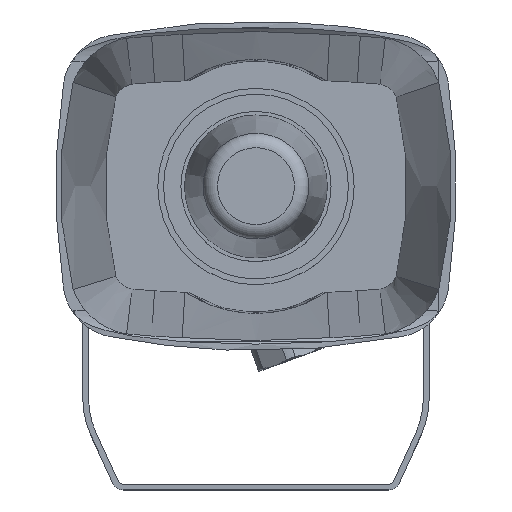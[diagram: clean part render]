
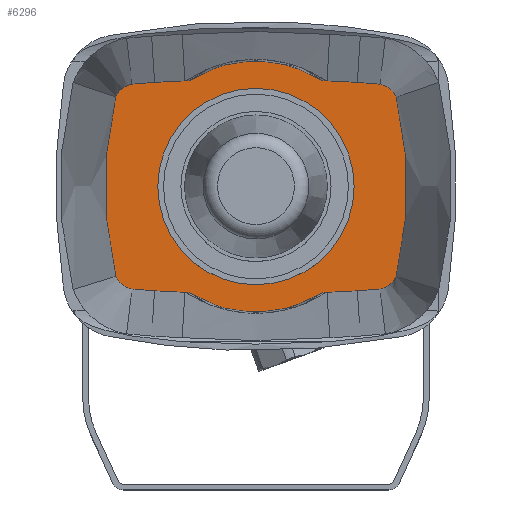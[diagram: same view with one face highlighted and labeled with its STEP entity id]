
A CAD part, top view. The second image highlights one B-rep face of the part: STEP entity #6296.
In plain terms, the highlighted planar face has unit normal (0, 0, 1).
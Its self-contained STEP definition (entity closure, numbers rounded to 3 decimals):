
#127=FACE_BOUND($,#1305,.T.);
#128=FACE_BOUND($,#1306,.T.);
#568=PLANE($,#6910);
#1305=EDGE_LOOP($,(#5394));
#1306=EDGE_LOOP($,(#5395,#5396,#5397,#5398,#5399,#5400,#5401,#5402,#5403,
#5404,#5405,#5406,#5407,#5408,#5409,#5410,#5411,#5412,#5413,#5414,#5415,
#5416,#5417,#5418));
#1646=LINE($,#11157,#2057);
#1647=LINE($,#11159,#2058);
#1649=LINE($,#11163,#2060);
#1650=LINE($,#11169,#2061);
#1695=LINE($,#11876,#2106);
#1696=LINE($,#11878,#2107);
#1697=LINE($,#11886,#2108);
#1698=LINE($,#11887,#2109);
#2057=VECTOR($,#8066,10.5);
#2058=VECTOR($,#8069,7.872);
#2060=VECTOR($,#8073,7.872);
#2061=VECTOR($,#8076,10.5);
#2106=VECTOR($,#8385,10.5);
#2107=VECTOR($,#8386,7.872);
#2108=VECTOR($,#8393,7.872);
#2109=VECTOR($,#8394,10.5);
#2360=CIRCLE($,#6730,7.629);
#2362=CIRCLE($,#6733,129.916);
#2364=CIRCLE($,#6736,7.629);
#2380=CIRCLE($,#6773,357.475);
#2381=CIRCLE($,#6774,357.475);
#2382=CIRCLE($,#6780,357.475);
#2383=CIRCLE($,#6782,357.475);
#2385=CIRCLE($,#6785,43.427);
#2386=CIRCLE($,#6787,356.516);
#2387=CIRCLE($,#6789,356.516);
#2400=CIRCLE($,#6811,43.427);
#2409=CIRCLE($,#6829,34.);
#2450=CIRCLE($,#6908,356.516);
#2451=CIRCLE($,#6909,356.516);
#2452=CIRCLE($,#6911,7.618);
#2453=CIRCLE($,#6912,129.916);
#2454=CIRCLE($,#6913,7.618);
#2851=VERTEX_POINT($,#10698);
#2852=VERTEX_POINT($,#10711);
#2855=VERTEX_POINT($,#10732);
#2858=VERTEX_POINT($,#10762);
#2898=VERTEX_POINT($,#11100);
#2899=VERTEX_POINT($,#11104);
#2900=VERTEX_POINT($,#11106);
#2901=VERTEX_POINT($,#11149);
#2902=VERTEX_POINT($,#11155);
#2903=VERTEX_POINT($,#11161);
#2904=VERTEX_POINT($,#11165);
#2906=VERTEX_POINT($,#11182);
#2908=VERTEX_POINT($,#11206);
#2911=VERTEX_POINT($,#11222);
#2912=VERTEX_POINT($,#11233);
#2913=VERTEX_POINT($,#11246);
#2914=VERTEX_POINT($,#11259);
#2950=VERTEX_POINT($,#11585);
#3027=VERTEX_POINT($,#11868);
#3028=VERTEX_POINT($,#11875);
#3029=VERTEX_POINT($,#11877);
#3030=VERTEX_POINT($,#11879);
#3031=VERTEX_POINT($,#11881);
#3032=VERTEX_POINT($,#11883);
#3033=VERTEX_POINT($,#11885);
#3644=EDGE_CURVE($,#2852,#2851,#2360,.T.);
#3649=EDGE_CURVE($,#2851,#2855,#2362,.T.);
#3653=EDGE_CURVE($,#2855,#2858,#2364,.T.);
#3707=EDGE_CURVE($,#2899,#2898,#2380,.T.);
#3709=EDGE_CURVE($,#2901,#2900,#2381,.T.);
#3712=EDGE_CURVE($,#2902,#2898,#1646,.T.);
#3713=EDGE_CURVE($,#2852,#2902,#1647,.T.);
#3715=EDGE_CURVE($,#2858,#2903,#1649,.T.);
#3717=EDGE_CURVE($,#2903,#2904,#1650,.T.);
#3720=EDGE_CURVE($,#2900,#2906,#2382,.T.);
#3722=EDGE_CURVE($,#2908,#2899,#2383,.T.);
#3726=EDGE_CURVE($,#2912,#2911,#2385,.T.);
#3729=EDGE_CURVE($,#2911,#2913,#2386,.T.);
#3731=EDGE_CURVE($,#2914,#2912,#2387,.T.);
#3757=EDGE_CURVE($,#2906,#2908,#2400,.T.);
#3772=EDGE_CURVE($,#2950,#2950,#2409,.T.);
#3868=EDGE_CURVE($,#2913,#3027,#2450,.T.);
#3869=EDGE_CURVE($,#2904,#2914,#2451,.T.);
#3870=EDGE_CURVE($,#3028,#3027,#1695,.T.);
#3871=EDGE_CURVE($,#3029,#3028,#1696,.T.);
#3872=EDGE_CURVE($,#3029,#3030,#2452,.T.);
#3873=EDGE_CURVE($,#3030,#3031,#2453,.T.);
#3874=EDGE_CURVE($,#3031,#3032,#2454,.T.);
#3875=EDGE_CURVE($,#3032,#3033,#1697,.T.);
#3876=EDGE_CURVE($,#3033,#2901,#1698,.T.);
#5394=ORIENTED_EDGE($,*,*,#3772,.F.);
#5395=ORIENTED_EDGE($,*,*,#3712,.F.);
#5396=ORIENTED_EDGE($,*,*,#3713,.F.);
#5397=ORIENTED_EDGE($,*,*,#3644,.T.);
#5398=ORIENTED_EDGE($,*,*,#3649,.T.);
#5399=ORIENTED_EDGE($,*,*,#3653,.T.);
#5400=ORIENTED_EDGE($,*,*,#3715,.T.);
#5401=ORIENTED_EDGE($,*,*,#3717,.T.);
#5402=ORIENTED_EDGE($,*,*,#3869,.T.);
#5403=ORIENTED_EDGE($,*,*,#3731,.T.);
#5404=ORIENTED_EDGE($,*,*,#3726,.T.);
#5405=ORIENTED_EDGE($,*,*,#3729,.T.);
#5406=ORIENTED_EDGE($,*,*,#3868,.T.);
#5407=ORIENTED_EDGE($,*,*,#3870,.F.);
#5408=ORIENTED_EDGE($,*,*,#3871,.F.);
#5409=ORIENTED_EDGE($,*,*,#3872,.T.);
#5410=ORIENTED_EDGE($,*,*,#3873,.T.);
#5411=ORIENTED_EDGE($,*,*,#3874,.T.);
#5412=ORIENTED_EDGE($,*,*,#3875,.T.);
#5413=ORIENTED_EDGE($,*,*,#3876,.T.);
#5414=ORIENTED_EDGE($,*,*,#3709,.T.);
#5415=ORIENTED_EDGE($,*,*,#3720,.T.);
#5416=ORIENTED_EDGE($,*,*,#3757,.T.);
#5417=ORIENTED_EDGE($,*,*,#3722,.T.);
#5418=ORIENTED_EDGE($,*,*,#3707,.T.);
#6296=ADVANCED_FACE($,(#127,#128),#568,.T.);
#6730=AXIS2_PLACEMENT_3D($,#10712,#7963,#7964);
#6733=AXIS2_PLACEMENT_3D($,#10745,#7969,#7970);
#6736=AXIS2_PLACEMENT_3D($,#10766,#7975,#7976);
#6773=AXIS2_PLACEMENT_3D($,#11105,#8059,#8060);
#6774=AXIS2_PLACEMENT_3D($,#11150,#8061,#8062);
#6780=AXIS2_PLACEMENT_3D($,#11193,#8079,#8080);
#6782=AXIS2_PLACEMENT_3D($,#11207,#8083,#8084);
#6785=AXIS2_PLACEMENT_3D($,#11234,#8089,#8090);
#6787=AXIS2_PLACEMENT_3D($,#11257,#8093,#8094);
#6789=AXIS2_PLACEMENT_3D($,#11270,#8097,#8098);
#6811=AXIS2_PLACEMENT_3D($,#11517,#8141,#8142);
#6829=AXIS2_PLACEMENT_3D($,#11586,#8177,#8178);
#6908=AXIS2_PLACEMENT_3D($,#11872,#8379,#8380);
#6909=AXIS2_PLACEMENT_3D($,#11873,#8381,#8382);
#6910=AXIS2_PLACEMENT_3D($,#11874,#8383,#8384);
#6911=AXIS2_PLACEMENT_3D($,#11880,#8387,#8388);
#6912=AXIS2_PLACEMENT_3D($,#11882,#8389,#8390);
#6913=AXIS2_PLACEMENT_3D($,#11884,#8391,#8392);
#7963=DIRECTION('center_axis',(0.,0.,1.));
#7964=DIRECTION('ref_axis',(1.,0.,0.));
#7969=DIRECTION('center_axis',(0.,0.,1.));
#7970=DIRECTION('ref_axis',(1.,0.,0.));
#7975=DIRECTION('center_axis',(0.,0.,1.));
#7976=DIRECTION('ref_axis',(1.,0.,0.));
#8059=DIRECTION('center_axis',(0.,0.,1.));
#8060=DIRECTION('ref_axis',(1.,0.,0.));
#8061=DIRECTION('center_axis',(0.,0.,1.));
#8062=DIRECTION('ref_axis',(1.,0.,0.));
#8066=DIRECTION($,(-0.999,-0.049,0.));
#8069=DIRECTION($,(-0.997,-0.079,0.));
#8073=DIRECTION($,(-0.997,0.079,0.));
#8076=DIRECTION($,(-0.999,0.049,0.));
#8079=DIRECTION('center_axis',(0.,0.,1.));
#8080=DIRECTION('ref_axis',(1.,0.,0.));
#8083=DIRECTION('center_axis',(0.,0.,1.));
#8084=DIRECTION('ref_axis',(1.,0.,0.));
#8089=DIRECTION('center_axis',(0.,0.,1.));
#8090=DIRECTION('ref_axis',(0.,1.,0.));
#8093=DIRECTION('center_axis',(0.,0.,1.));
#8094=DIRECTION('ref_axis',(1.,0.,0.));
#8097=DIRECTION('center_axis',(0.,0.,1.));
#8098=DIRECTION('ref_axis',(1.,0.,0.));
#8141=DIRECTION('center_axis',(0.,0.,1.));
#8142=DIRECTION('ref_axis',(0.,1.,0.));
#8177=DIRECTION('center_axis',(0.,0.,1.));
#8178=DIRECTION('ref_axis',(0.,1.,0.));
#8379=DIRECTION('center_axis',(0.,0.,1.));
#8380=DIRECTION('ref_axis',(1.,0.,0.));
#8381=DIRECTION('center_axis',(0.,0.,1.));
#8382=DIRECTION('ref_axis',(1.,0.,0.));
#8383=DIRECTION('center_axis',(0.,0.,1.));
#8384=DIRECTION('ref_axis',(1.,0.,0.));
#8385=DIRECTION($,(0.999,0.049,0.));
#8386=DIRECTION($,(0.997,0.079,0.));
#8387=DIRECTION('center_axis',(0.,0.,1.));
#8388=DIRECTION('ref_axis',(1.,0.,0.));
#8389=DIRECTION('center_axis',(0.,0.,1.));
#8390=DIRECTION('ref_axis',(1.,0.,0.));
#8391=DIRECTION('center_axis',(0.,0.,1.));
#8392=DIRECTION('ref_axis',(1.,0.,0.));
#8393=DIRECTION($,(0.997,-0.079,0.));
#8394=DIRECTION($,(0.999,-0.049,0.));
#10698=CARTESIAN_POINT('',(48.527,73.901,27.5));
#10711=CARTESIAN_POINT('',(42.947,69.512,27.5));
#10712=CARTESIAN_POINT('Origin',(41.562,77.015,27.5));
#10732=CARTESIAN_POINT('',(48.528,136.096,27.5));
#10745=CARTESIAN_POINT('Origin',(-77.613,105.001,27.5));
#10762=CARTESIAN_POINT('',(42.948,140.485,27.5));
#10766=CARTESIAN_POINT('Origin',(41.563,132.982,27.5));
#11100=CARTESIAN_POINT('',(24.613,68.373,27.5));
#11104=CARTESIAN_POINT('',(24.354,68.355,27.5));
#11105=CARTESIAN_POINT('Origin',(-0.001,424.999,27.5));
#11106=CARTESIAN_POINT('',(-24.354,68.355,27.5));
#11149=CARTESIAN_POINT('',(-24.616,68.373,27.5));
#11150=CARTESIAN_POINT('Origin',(-0.001,424.999,27.5));
#11155=CARTESIAN_POINT('',(35.1,68.891,27.5));
#11157=CARTESIAN_POINT($,(35.1,68.891,27.5));
#11159=CARTESIAN_POINT($,(42.947,69.512,27.5));
#11161=CARTESIAN_POINT('',(35.101,141.107,27.5));
#11163=CARTESIAN_POINT($,(42.948,140.485,27.5));
#11165=CARTESIAN_POINT('',(24.614,141.625,27.5));
#11169=CARTESIAN_POINT($,(35.101,141.107,27.5));
#11182=CARTESIAN_POINT('',(-23.178,68.276,27.5));
#11193=CARTESIAN_POINT('Origin',(-0.001,424.999,27.5));
#11206=CARTESIAN_POINT('',(23.179,68.276,27.5));
#11207=CARTESIAN_POINT('Origin',(-0.001,424.999,27.5));
#11222=CARTESIAN_POINT('',(-23.182,141.721,27.5));
#11233=CARTESIAN_POINT('',(23.182,141.721,27.5));
#11234=CARTESIAN_POINT('Origin',(0.,105.,27.5));
#11246=CARTESIAN_POINT('',(-24.358,141.643,27.5));
#11257=CARTESIAN_POINT('Origin',(-0.001,-214.04,
27.5));
#11259=CARTESIAN_POINT('',(24.358,141.643,27.5));
#11270=CARTESIAN_POINT('Origin',(-0.001,-214.04,
27.5));
#11517=CARTESIAN_POINT('Origin',(0.,105.,27.5));
#11585=CARTESIAN_POINT('',(0.,139.,27.5));
#11586=CARTESIAN_POINT('Origin',(0.,105.,27.5));
#11868=CARTESIAN_POINT('',(-24.617,141.625,27.5));
#11872=CARTESIAN_POINT('Origin',(-0.001,-214.04,
27.5));
#11873=CARTESIAN_POINT('Origin',(-0.001,-214.04,
27.5));
#11874=CARTESIAN_POINT('Origin',(0.,104.999,
27.5));
#11875=CARTESIAN_POINT('',(-35.104,141.107,27.5));
#11876=CARTESIAN_POINT($,(-35.104,141.107,27.5));
#11877=CARTESIAN_POINT('',(-42.951,140.485,27.5));
#11878=CARTESIAN_POINT($,(-42.951,140.485,27.5));
#11879=CARTESIAN_POINT('',(-48.528,136.096,27.5));
#11880=CARTESIAN_POINT('Origin',(-41.57,132.993,27.5));
#11881=CARTESIAN_POINT('',(-48.527,73.901,27.5));
#11882=CARTESIAN_POINT('Origin',(77.613,105.001,27.5));
#11883=CARTESIAN_POINT('',(-42.95,69.512,27.5));
#11884=CARTESIAN_POINT('Origin',(-41.569,77.004,27.5));
#11885=CARTESIAN_POINT('',(-35.103,68.891,27.5));
#11886=CARTESIAN_POINT($,(-42.95,69.512,27.5));
#11887=CARTESIAN_POINT($,(-35.103,68.891,27.5));
